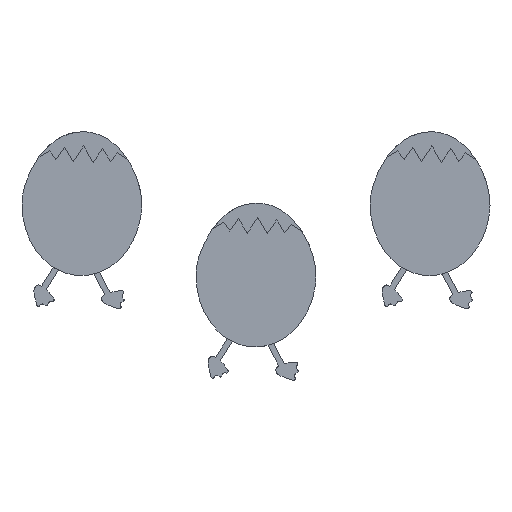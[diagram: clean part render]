
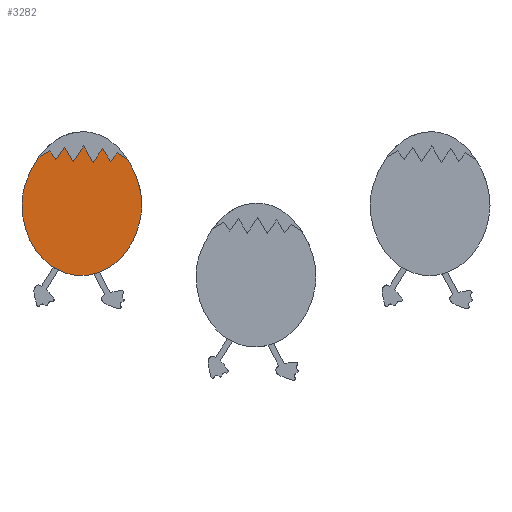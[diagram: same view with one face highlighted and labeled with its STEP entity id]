
A CAD part, top view. The second image highlights one B-rep face of the part: STEP entity #3282.
In plain terms, the highlighted planar face has unit normal (0, 0, 1).
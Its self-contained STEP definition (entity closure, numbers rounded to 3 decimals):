
#9 = VECTOR ( 'NONE', #1059, 1000. ) ;
#43 = CARTESIAN_POINT ( 'NONE',  ( -1117.728, 433.204, -519.464 ) ) ;
#68 = CARTESIAN_POINT ( 'NONE',  ( -956.403, 303.259, -519.464 ) ) ;
#98 = VECTOR ( 'NONE', #540, 1000. ) ;
#103 = VERTEX_POINT ( 'NONE', #3268 ) ;
#160 = CARTESIAN_POINT ( 'NONE',  ( -1013.609, 430.049, -519.464 ) ) ;
#167 = DIRECTION ( 'NONE',  ( -0.58, -0.815, 0. ) ) ;
#169 = DIRECTION ( 'NONE',  ( -0.56, -0.828, 0. ) ) ;
#235 = VERTEX_POINT ( 'NONE', #963 ) ;
#355 = EDGE_CURVE ( 'NONE', #1086, #235, #571, .T. ) ;
#403 = LINE ( 'NONE', #485, #9 ) ;
#436 = CARTESIAN_POINT ( 'NONE',  ( -1033.462, 443.476, -519.464 ) ) ;
#470 = LINE ( 'NONE', #1640, #1671 ) ;
#475 = CARTESIAN_POINT ( 'NONE',  ( -1028.729, 502.699, -519.464 ) ) ;
#485 = CARTESIAN_POINT ( 'NONE',  ( -1066.226, 523.698, -519.464 ) ) ;
#491 = DIRECTION ( 'NONE',  ( 0., 0., 1. ) ) ;
#509 = CARTESIAN_POINT ( 'NONE',  ( -1019.509, 434.816, -519.464 ) ) ;
#514 = LINE ( 'NONE', #2268, #3030 ) ;
#535 = VERTEX_POINT ( 'NONE', #2694 ) ;
#540 = DIRECTION ( 'NONE',  ( -0.495, 0.869, 0. ) ) ;
#571 = B_SPLINE_CURVE_WITH_KNOTS ( 'NONE', 3,
 ( #1162, #3514, #2053, #1426 ),
 .UNSPECIFIED., .F., .F.,
 ( 4, 4 ),
 ( 0.518, 1. ),
 .UNSPECIFIED. ) ;
#601 = EDGE_CURVE ( 'NONE', #2555, #1624, #1907, .T. ) ;
#619 = CARTESIAN_POINT ( 'NONE',  ( -1017.395, 305.107, -519.464 ) ) ;
#682 = CARTESIAN_POINT ( 'NONE',  ( -1017.395, 305.107, -519.464 ) ) ;
#722 = ORIENTED_EDGE ( 'NONE', *, *, #3054, .T. ) ;
#743 = EDGE_CURVE ( 'NONE', #1800, #3111, #1401, .T. ) ;
#782 = FACE_OUTER_BOUND ( 'NONE', #869, .T. ) ;
#869 = EDGE_LOOP ( 'NONE', ( #1824, #1779, #1228, #1958, #2916, #2640, #2682, #2966, #3103, #722, #1335, #1741, #1916, #1770, #3019 ) ) ;
#899 = CARTESIAN_POINT ( 'NONE',  ( -944.667, 473.064, -519.464 ) ) ;
#902 = EDGE_CURVE ( 'NONE', #3503, #1829, #514, .T. ) ;
#963 = CARTESIAN_POINT ( 'NONE',  ( -1117.728, 433.204, -519.464 ) ) ;
#1004 = CARTESIAN_POINT ( 'NONE',  ( -955.418, 520.34, -519.464 ) ) ;
#1059 = DIRECTION ( 'NONE',  ( -0.872, -0.49, 0. ) ) ;
#1086 = VERTEX_POINT ( 'NONE', #1911 ) ;
#1162 = CARTESIAN_POINT ( 'NONE',  ( -1090.14, 508.72, -519.464 ) ) ;
#1212 = CARTESIAN_POINT ( 'NONE',  ( -1017.395, 305.107, -519.464 ) ) ;
#1228 = ORIENTED_EDGE ( 'NONE', *, *, #2910, .T. ) ;
#1235 = CARTESIAN_POINT ( 'NONE',  ( -909.49, 426.894, -519.464 ) ) ;
#1251 = AXIS2_PLACEMENT_3D ( 'NONE', #160, #491, #2789 ) ;
#1278 = LINE ( 'NONE', #1773, #3266 ) ;
#1335 = ORIENTED_EDGE ( 'NONE', *, *, #1392, .T. ) ;
#1338 = EDGE_CURVE ( 'NONE', #3643, #2603, #1748, .T. ) ;
#1369 = PLANE ( 'NONE',  #1251 ) ;
#1392 = EDGE_CURVE ( 'NONE', #535, #1800, #1868, .T. ) ;
#1401 = LINE ( 'NONE', #3169, #98 ) ;
#1426 = CARTESIAN_POINT ( 'NONE',  ( -1117.728, 433.204, -519.464 ) ) ;
#1430 = DIRECTION ( 'NONE',  ( -0.509, 0.861, 0. ) ) ;
#1513 = CARTESIAN_POINT ( 'NONE',  ( -1058.85, 506.632, -519.464 ) ) ;
#1569 = DIRECTION ( 'NONE',  ( -0.547, -0.837, 0. ) ) ;
#1584 = CARTESIAN_POINT ( 'NONE',  ( -1069.64, 521.779, -519.464 ) ) ;
#1603 = CARTESIAN_POINT ( 'NONE',  ( -1089.532, 509.587, -519.464 ) ) ;
#1606 = VECTOR ( 'NONE', #2891, 1000. ) ;
#1624 = VERTEX_POINT ( 'NONE', #2707 ) ;
#1640 = CARTESIAN_POINT ( 'NONE',  ( -1007.431, 434.45, -519.464 ) ) ;
#1671 = VECTOR ( 'NONE', #2810, 1000. ) ;
#1738 = DIRECTION ( 'NONE',  ( -0.628, -0.778, 0. ) ) ;
#1741 = ORIENTED_EDGE ( 'NONE', *, *, #743, .T. ) ;
#1742 = CARTESIAN_POINT ( 'NONE',  ( -1010.565, 530.499, -519.464 ) ) ;
#1748 =( BOUNDED_CURVE ( )  B_SPLINE_CURVE ( 3, ( #682, #68, #3234, #1235 ),
 .UNSPECIFIED., .F., .T. ) 
 B_SPLINE_CURVE_WITH_KNOTS ( ( 4, 4 ),
 ( 0., 1.571 ),
 .UNSPECIFIED. ) 
 CURVE ( )  GEOMETRIC_REPRESENTATION_ITEM ( )  RATIONAL_B_SPLINE_CURVE ( ( 1., 0.805, 0.805, 1. ) ) 
 REPRESENTATION_ITEM ( '' )  );
#1770 = ORIENTED_EDGE ( 'NONE', *, *, #2064, .T. ) ;
#1773 = CARTESIAN_POINT ( 'NONE',  ( -1057.471, 458.708, -519.464 ) ) ;
#1779 = ORIENTED_EDGE ( 'NONE', *, *, #2637, .T. ) ;
#1800 = VERTEX_POINT ( 'NONE', #2083 ) ;
#1824 = ORIENTED_EDGE ( 'NONE', *, *, #3373, .T. ) ;
#1829 = VERTEX_POINT ( 'NONE', #1513 ) ;
#1846 = CARTESIAN_POINT ( 'NONE',  ( -1088.914, 510.448, -519.464 ) ) ;
#1868 = LINE ( 'NONE', #436, #2852 ) ;
#1907 = LINE ( 'NONE', #1004, #3095 ) ;
#1911 = CARTESIAN_POINT ( 'NONE',  ( -1090.14, 508.72, -519.464 ) ) ;
#1916 = ORIENTED_EDGE ( 'NONE', *, *, #2874, .T. ) ;
#1942 = B_SPLINE_CURVE_WITH_KNOTS ( 'NONE', 3,
 ( #3650, #1846, #1603, #3064 ),
 .UNSPECIFIED., .F., .F.,
 ( 4, 4 ),
 ( 0.501, 0.518 ),
 .UNSPECIFIED. ) ;
#1958 = ORIENTED_EDGE ( 'NONE', *, *, #355, .T. ) ;
#1986 = EDGE_CURVE ( 'NONE', #1624, #103, #3180, .T. ) ;
#2041 = LINE ( 'NONE', #899, #1606 ) ;
#2045 = CARTESIAN_POINT ( 'NONE',  ( -1088.287, 511.302, -519.464 ) ) ;
#2053 = CARTESIAN_POINT ( 'NONE',  ( -1117.08, 454.591, -519.464 ) ) ;
#2060 = VECTOR ( 'NONE', #1738, 1000. ) ;
#2064 = EDGE_CURVE ( 'NONE', #3001, #3503, #3198, .T. ) ;
#2083 = CARTESIAN_POINT ( 'NONE',  ( -994.118, 501.65, -519.464 ) ) ;
#2182 = CARTESIAN_POINT ( 'NONE',  ( -908.819, 449.034, -519.464 ) ) ;
#2268 = CARTESIAN_POINT ( 'NONE',  ( -1079.82, 477.16, -519.464 ) ) ;
#2324 = CARTESIAN_POINT ( 'NONE',  ( -1078.386, 306.955, -519.464 ) ) ;
#2478 = CARTESIAN_POINT ( 'NONE',  ( -909.49, 426.894, -519.464 ) ) ;
#2534 = VECTOR ( 'NONE', #1430, 1000. ) ;
#2555 = VERTEX_POINT ( 'NONE', #2652 ) ;
#2603 = VERTEX_POINT ( 'NONE', #2749 ) ;
#2637 = EDGE_CURVE ( 'NONE', #3261, #3574, #403, .T. ) ;
#2640 = ORIENTED_EDGE ( 'NONE', *, *, #1338, .T. ) ;
#2652 = CARTESIAN_POINT ( 'NONE',  ( -934.148, 506.632, -519.464 ) ) ;
#2682 = ORIENTED_EDGE ( 'NONE', *, *, #2684, .T. ) ;
#2684 = EDGE_CURVE ( 'NONE', #2603, #2555, #2798, .T. ) ;
#2694 = CARTESIAN_POINT ( 'NONE',  ( -977.673, 525.965, -519.464 ) ) ;
#2707 = CARTESIAN_POINT ( 'NONE',  ( -952.126, 518.219, -519.464 ) ) ;
#2731 = DIRECTION ( 'NONE',  ( -0.841, 0.542, 0. ) ) ;
#2749 = CARTESIAN_POINT ( 'NONE',  ( -909.49, 426.894, -519.464 ) ) ;
#2789 = DIRECTION ( 'NONE',  ( 1., 0., 0. ) ) ;
#2795 =( BOUNDED_CURVE ( )  B_SPLINE_CURVE ( 3, ( #43, #3246, #2324, #619 ),
 .UNSPECIFIED., .F., .F. ) 
 B_SPLINE_CURVE_WITH_KNOTS ( ( 4, 4 ),
 ( 4.712, 6.283 ),
 .UNSPECIFIED. ) 
 CURVE ( )  GEOMETRIC_REPRESENTATION_ITEM ( )  RATIONAL_B_SPLINE_CURVE ( ( 1., 0.805, 0.805, 1. ) ) 
 REPRESENTATION_ITEM ( '' )  );
#2798 = B_SPLINE_CURVE_WITH_KNOTS ( 'NONE', 3,
 ( #2478, #2182, #3092, #3355 ),
 .UNSPECIFIED., .F., .F.,
 ( 4, 4 ),
 ( 0., 0.499 ),
 .UNSPECIFIED. ) ;
#2810 = DIRECTION ( 'NONE',  ( -0.58, 0.814, 0. ) ) ;
#2852 = VECTOR ( 'NONE', #169, 1000. ) ;
#2874 = EDGE_CURVE ( 'NONE', #3111, #3001, #1278, .T. ) ;
#2888 = CARTESIAN_POINT ( 'NONE',  ( -992.979, 442.25, -519.464 ) ) ;
#2891 = DIRECTION ( 'NONE',  ( -0.529, 0.848, 0. ) ) ;
#2910 = EDGE_CURVE ( 'NONE', #3574, #1086, #1942, .T. ) ;
#2916 = ORIENTED_EDGE ( 'NONE', *, *, #3629, .T. ) ;
#2966 = ORIENTED_EDGE ( 'NONE', *, *, #601, .T. ) ;
#3001 = VERTEX_POINT ( 'NONE', #475 ) ;
#3019 = ORIENTED_EDGE ( 'NONE', *, *, #902, .T. ) ;
#3030 = VECTOR ( 'NONE', #167, 1000. ) ;
#3054 = EDGE_CURVE ( 'NONE', #103, #535, #2041, .T. ) ;
#3064 = CARTESIAN_POINT ( 'NONE',  ( -1090.14, 508.72, -519.464 ) ) ;
#3066 = CARTESIAN_POINT ( 'NONE',  ( -1043.671, 527.965, -519.464 ) ) ;
#3092 = CARTESIAN_POINT ( 'NONE',  ( -917.275, 480.449, -519.464 ) ) ;
#3095 = VECTOR ( 'NONE', #2731, 1000. ) ;
#3103 = ORIENTED_EDGE ( 'NONE', *, *, #1986, .T. ) ;
#3111 = VERTEX_POINT ( 'NONE', #1742 ) ;
#3169 = CARTESIAN_POINT ( 'NONE',  ( -968.092, 456., -519.464 ) ) ;
#3180 = LINE ( 'NONE', #509, #2060 ) ;
#3198 = LINE ( 'NONE', #2888, #2534 ) ;
#3234 = CARTESIAN_POINT ( 'NONE',  ( -911.708, 353.705, -519.464 ) ) ;
#3246 = CARTESIAN_POINT ( 'NONE',  ( -1119.945, 360.015, -519.464 ) ) ;
#3261 = VERTEX_POINT ( 'NONE', #1584 ) ;
#3266 = VECTOR ( 'NONE', #1569, 1000. ) ;
#3268 = CARTESIAN_POINT ( 'NONE',  ( -963.814, 503.752, -519.464 ) ) ;
#3282 = ADVANCED_FACE ( 'NONE', ( #782 ), #1369, .T. ) ;
#3355 = CARTESIAN_POINT ( 'NONE',  ( -934.148, 506.632, -519.464 ) ) ;
#3373 = EDGE_CURVE ( 'NONE', #1829, #3261, #470, .T. ) ;
#3503 = VERTEX_POINT ( 'NONE', #3066 ) ;
#3514 = CARTESIAN_POINT ( 'NONE',  ( -1107.407, 484.101, -519.464 ) ) ;
#3574 = VERTEX_POINT ( 'NONE', #2045 ) ;
#3629 = EDGE_CURVE ( 'NONE', #235, #3643, #2795, .T. ) ;
#3643 = VERTEX_POINT ( 'NONE', #1212 ) ;
#3650 = CARTESIAN_POINT ( 'NONE',  ( -1088.287, 511.302, -519.464 ) ) ;
